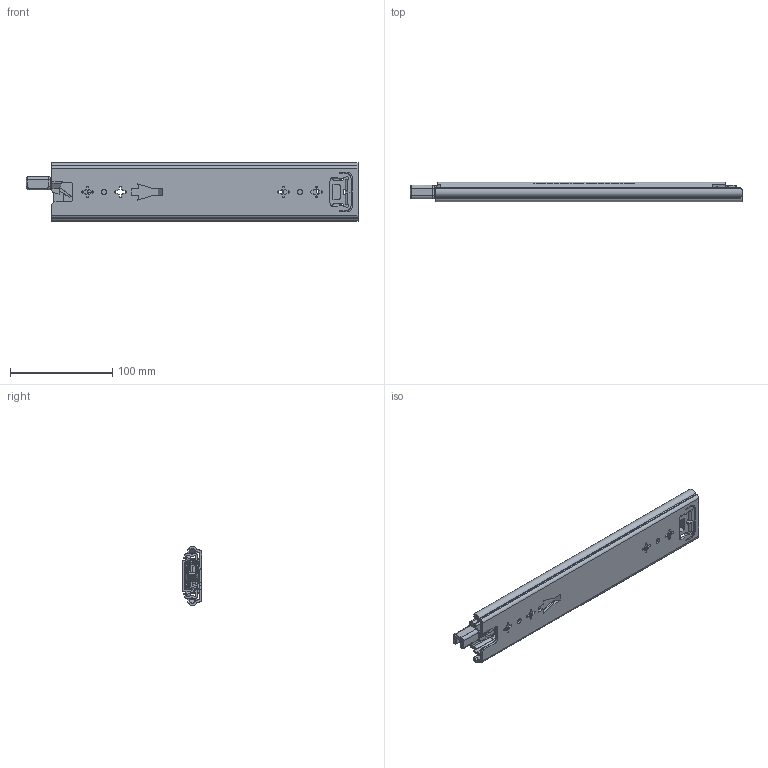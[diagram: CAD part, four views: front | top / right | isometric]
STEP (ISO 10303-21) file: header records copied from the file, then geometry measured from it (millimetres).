
FILE_DESCRIPTION((''),'2;1');
FILE_NAME('KP-57-01ZUZHUANGTU-12YOU_ASM','2023-04-01T',('jishu015'),(''),'PRO/ENGINEER BY PARAMETRIC TECHNOLOGY CORPORATION, 2010280','PRO/ENGINEER BY PARAMETRIC TECHNOLOGY CORPORATION, 2010280','');
FILE_SCHEMA(('CONFIG_CONTROL_DESIGN'));
Length unit declared in the file: millimetre
Products named in the file (21): KP-57-01WEIKE-20_____; 1057WEIJIAO11; WAIKE____________________ASM; KP-57-01ZHONGGUI-26________; ZHONGGUIPEIJIAN-20_____; ZHONGGUISUOKOU-18____; KP-57-01ZHONGGUI-26_________ASM; 1057XIAOZHUJIA11___; 1057-5-6GANZHU1___; 1057XIAOZHUJIA-14GE26_________ASM; KP-57-01NEIGUI-22______; PJ-57-08___________________; DIAOPIAN-11___________________; 50XINSUOKOU-111; 1053-3SBANJI12222; JIAO11_________________; KP-57-01NEIGUI-22_______ASM; 1053ZHUTIAO-275________; 53-5-6GANZHU1_____; 1053ZHUTIAO-175MM111_____ASM; KP-57-01ZUZHUANGTU-12YOU_ASM
Assembly tree (38 placements, depth 3):
  KP-57-01ZUZHUANGTU-12YOU_ASM
    WAIKE____________________ASM
      KP-57-01WEIKE-20_____
      1057WEIJIAO11
    KP-57-01ZHONGGUI-26_________ASM
      KP-57-01ZHONGGUI-26________
      ZHONGGUIPEIJIAN-20_____
      ZHONGGUISUOKOU-18____
    1057XIAOZHUJIA-14GE26_________ASM
      1057XIAOZHUJIA11___
      1057-5-6GANZHU1___  x16
    KP-57-01NEIGUI-22_______ASM
      KP-57-01NEIGUI-22______
      PJ-57-08___________________
      DIAOPIAN-11___________________
      50XINSUOKOU-111
      1053-3SBANJI12222
      JIAO11_________________
    1053ZHUTIAO-175MM111_____ASM  x2
      1053ZHUTIAO-275________
      53-5-6GANZHU1_____
Bounding box: 325.42 x 19 x 57.67 mm (x, y, z)
Volume: 129517.3 mm3; surface area: 137994.5 mm2
Topology: 37 solids, 37 shells, 1354 faces, 3823 edges, 2424 vertices
Faces by surface type: plane 610, cylinder 536, bspline 67, sphere 55, cone 44, extrusion 23, torus 19
Entity records: 46420 total; most frequent: CARTESIAN_POINT 12338, ORIENTED_EDGE 7218, DIRECTION 6947, EDGE_CURVE 3609, AXIS2_PLACEMENT_3D 2379, VERTEX_POINT 2332, VECTOR 2189, LINE 2166
